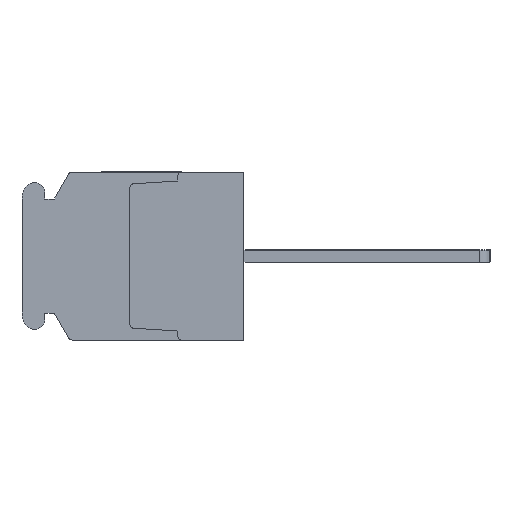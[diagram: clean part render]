
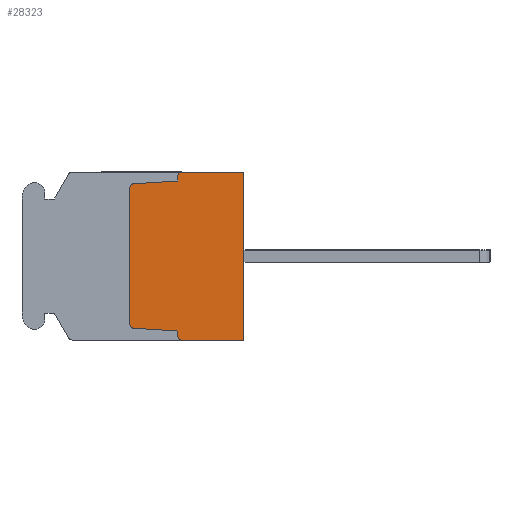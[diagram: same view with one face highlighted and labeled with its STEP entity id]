
A CAD part, left-side view. The second image highlights one B-rep face of the part: STEP entity #28323.
In plain terms, the highlighted planar face has unit normal (-1, 0, 0).
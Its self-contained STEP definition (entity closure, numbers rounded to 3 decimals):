
#1310=CIRCLE('',#30506,0.3);
#1311=CIRCLE('',#30507,0.3);
#1312=CIRCLE('',#30508,0.3);
#1313=CIRCLE('',#30509,0.3);
#2848=VERTEX_POINT('',#40924);
#2849=VERTEX_POINT('',#40926);
#2853=VERTEX_POINT('',#40972);
#2871=VERTEX_POINT('',#41013);
#4048=VERTEX_POINT('',#45231);
#4049=VERTEX_POINT('',#45232);
#4050=VERTEX_POINT('',#45234);
#4051=VERTEX_POINT('',#45236);
#4052=VERTEX_POINT('',#45238);
#4053=VERTEX_POINT('',#45240);
#4054=VERTEX_POINT('',#45243);
#4055=VERTEX_POINT('',#45245);
#5748=VECTOR('',#33629,1.);
#5796=VECTOR('',#33703,1.);
#5818=VECTOR('',#33726,1.);
#7142=VECTOR('',#36376,1.);
#7143=VECTOR('',#36379,1.);
#7144=VECTOR('',#36380,1.);
#7145=VECTOR('',#36385,1.);
#7146=VECTOR('',#36386,1.);
#8876=LINE('',#40925,#5748);
#8924=LINE('',#41014,#5796);
#8946=LINE('',#41057,#5818);
#10270=LINE('',#45233,#7142);
#10271=LINE('',#45237,#7143);
#10272=LINE('',#45239,#7144);
#10273=LINE('',#45244,#7145);
#10274=LINE('',#45246,#7146);
#12560=EDGE_CURVE('',#2848,#2849,#8876,.T.);
#12608=EDGE_CURVE('',#2871,#2853,#8924,.T.);
#12630=EDGE_CURVE('',#2853,#2848,#8946,.T.);
#14440=EDGE_CURVE('',#4048,#4049,#1310,.T.);
#14441=EDGE_CURVE('',#4050,#4048,#10270,.T.);
#14442=EDGE_CURVE('',#4051,#4050,#1311,.T.);
#14443=EDGE_CURVE('',#4052,#4051,#10271,.T.);
#14444=EDGE_CURVE('',#4053,#4052,#10272,.T.);
#14445=EDGE_CURVE('',#2849,#4053,#1312,.T.);
#14446=EDGE_CURVE('',#4054,#2871,#1313,.T.);
#14447=EDGE_CURVE('',#4055,#4054,#10273,.T.);
#14448=EDGE_CURVE('',#4049,#4055,#10274,.T.);
#22506=ORIENTED_EDGE('',*,*,#14440,.F.);
#22507=ORIENTED_EDGE('',*,*,#14441,.F.);
#22508=ORIENTED_EDGE('',*,*,#14442,.F.);
#22509=ORIENTED_EDGE('',*,*,#14443,.F.);
#22510=ORIENTED_EDGE('',*,*,#14444,.F.);
#22511=ORIENTED_EDGE('',*,*,#14445,.F.);
#22512=ORIENTED_EDGE('',*,*,#12560,.F.);
#22513=ORIENTED_EDGE('',*,*,#12630,.F.);
#22514=ORIENTED_EDGE('',*,*,#12608,.F.);
#22515=ORIENTED_EDGE('',*,*,#14446,.F.);
#22516=ORIENTED_EDGE('',*,*,#14447,.F.);
#22517=ORIENTED_EDGE('',*,*,#14448,.F.);
#25027=EDGE_LOOP('',(#22506,#22507,#22508,#22509,#22510,#22511,#22512,#22513,
#22514,#22515,#22516,#22517));
#26735=FACE_BOUND('',#25027,.T.);
#28323=ADVANCED_FACE('',(#26735),#47753,.F.);
#30505=AXIS2_PLACEMENT_3D('',#45229,#36373,$);
#30506=AXIS2_PLACEMENT_3D('',#45230,#36374,#36375);
#30507=AXIS2_PLACEMENT_3D('',#45235,#36377,#36378);
#30508=AXIS2_PLACEMENT_3D('',#45241,#36381,#36382);
#30509=AXIS2_PLACEMENT_3D('',#45242,#36383,#36384);
#33629=DIRECTION('',(0.,1.,0.));
#33703=DIRECTION('',(0.,-1.,0.));
#33726=DIRECTION('',(0.,0.,-1.));
#36373=DIRECTION('',(1.,0.,0.));
#36374=DIRECTION('',(1.,0.,0.));
#36375=DIRECTION('',(0.,0.,-0.3));
#36376=DIRECTION('',(0.,0.,1.));
#36377=DIRECTION('',(1.,0.,0.));
#36378=DIRECTION('',(0.,0.,-0.3));
#36379=DIRECTION('',(0.,0.998,0.062));
#36380=DIRECTION('',(0.,0.,1.));
#36381=DIRECTION('',(1.,0.,0.));
#36382=DIRECTION('',(0.,0.,-0.3));
#36383=DIRECTION('',(1.,0.,0.));
#36384=DIRECTION('',(0.,0.,-0.3));
#36385=DIRECTION('',(0.,0.,1.));
#36386=DIRECTION('',(0.,-0.998,0.062));
#40924=CARTESIAN_POINT('',(0.,0.,-7.));
#40925=CARTESIAN_POINT('',(0.,0.,-7.));
#40926=CARTESIAN_POINT('',(0.,5.2,-7.));
#40972=CARTESIAN_POINT('',(0.,0.,7.));
#41013=CARTESIAN_POINT('',(0.,5.2,7.));
#41014=CARTESIAN_POINT('',(0.,5.2,7.));
#41057=CARTESIAN_POINT('',(0.,0.,7.));
#45229=CARTESIAN_POINT('',(0.,4.541,0.));
#45230=CARTESIAN_POINT('',(0.,9.2,5.718));
#45231=CARTESIAN_POINT('',(0.,9.5,5.718));
#45232=CARTESIAN_POINT('',(0.,9.219,6.018));
#45233=CARTESIAN_POINT('',(0.,9.5,-5.718));
#45234=CARTESIAN_POINT('',(0.,9.5,-5.718));
#45235=CARTESIAN_POINT('',(0.,9.2,-5.718));
#45236=CARTESIAN_POINT('',(0.,9.219,-6.018));
#45237=CARTESIAN_POINT('',(0.,5.5,-6.25));
#45238=CARTESIAN_POINT('',(0.,5.5,-6.25));
#45239=CARTESIAN_POINT('',(0.,5.5,-6.7));
#45240=CARTESIAN_POINT('',(0.,5.5,-6.7));
#45241=CARTESIAN_POINT('',(0.,5.2,-6.7));
#45242=CARTESIAN_POINT('',(0.,5.2,6.7));
#45243=CARTESIAN_POINT('',(0.,5.5,6.7));
#45244=CARTESIAN_POINT('',(0.,5.5,6.25));
#45245=CARTESIAN_POINT('',(0.,5.5,6.25));
#45246=CARTESIAN_POINT('',(0.,9.219,6.018));
#47753=PLANE('',#30505);
